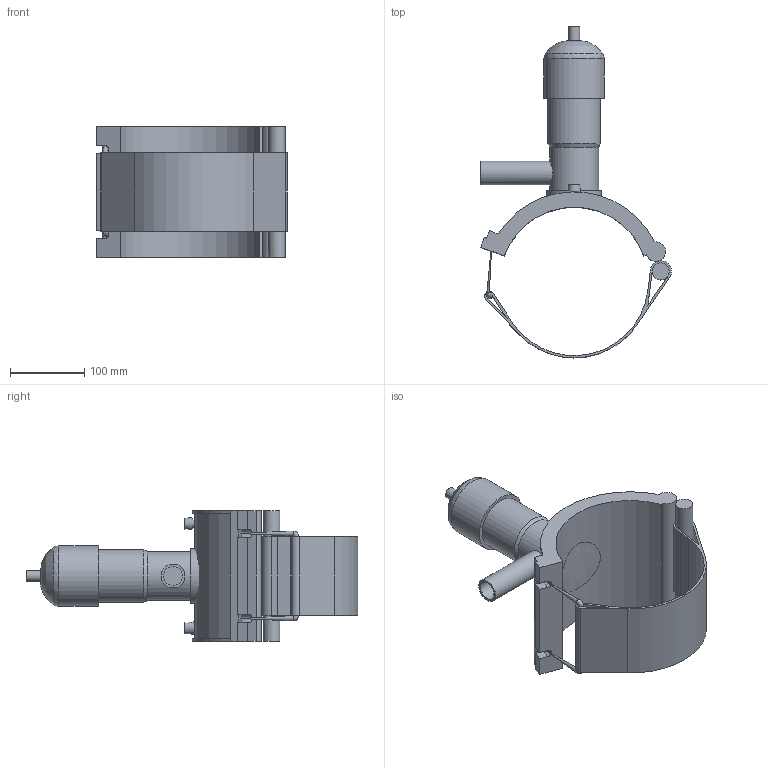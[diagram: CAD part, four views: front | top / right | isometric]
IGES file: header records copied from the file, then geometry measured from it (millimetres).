
Global section: file name: 495404200032.ipt; native system: Autodesk Inventor 2015; preprocessor: unknown; author: KIM; date: 20171106.094306; units: millimetre
Bounding box: 256.95 x 447 x 176 mm (x, y, z)
Volume: 2102298.2 mm3; surface area: 324290.2 mm2
Topology: 3 solids, 4 shells, 81 faces, 196 edges, 130 vertices
Faces by surface type: plane 45, cylinder 20, revolution 13, cone 3
Full cylindrical faces by diameter (mm): 4 x2, 6.8 x2, 14.64 x1, 22.769 x1, 32 x1, 65.88 x1, 70.76 x1, 73.2 x1, 81.333 x1
